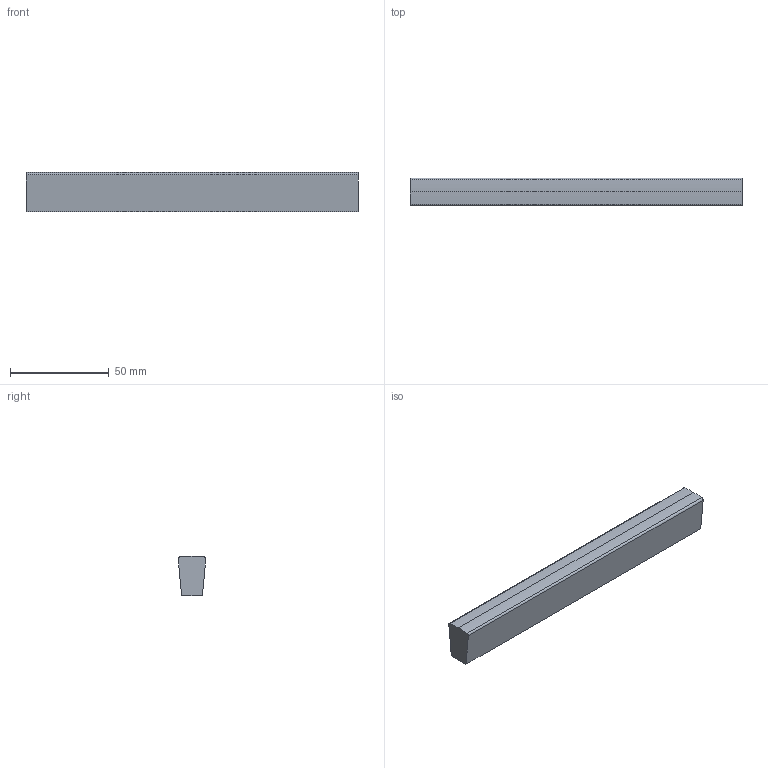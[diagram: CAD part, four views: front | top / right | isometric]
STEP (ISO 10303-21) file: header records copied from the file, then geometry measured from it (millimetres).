
FILE_DESCRIPTION (( 'STEP AP214' ), '1' );
FILE_NAME ('104920xxx TRIM 1410_LT6582.STEP', '2023-10-23T13:04:29', ( '' ), ( '' ), 'SwSTEP 2.0', 'SolidWorks 2022', '' );
FILE_SCHEMA (( 'AUTOMOTIVE_DESIGN' ));
Length unit declared in the file: millimetre
Products named in the file (3): 104920xxx TRIM 1410_LT6582 no insert; 104920xxx TRIM 1410_LT6582; M4 LT insert
Assembly tree (3 placements, depth 2):
  104920xxx TRIM 1410_LT6582
    104920xxx TRIM 1410_LT6582 no insert
    M4 LT insert  x2
Bounding box: 168 x 14 x 20 mm (x, y, z)
Volume: 40948.9 mm3; surface area: 12541.5 mm2
Topology: 3 solids, 3 shells, 93 faces, 475 edges, 390 vertices
Faces by surface type: cylinder 36, plane 23, bspline 18, cone 16
Entity records: 7046 total; most frequent: CARTESIAN_POINT 5049, ORIENTED_EDGE 508, EDGE_CURVE 254, DIRECTION 252, VERTEX_POINT 206, B_SPLINE_CURVE_WITH_KNOTS 150, AXIS2_PLACEMENT_3D 97, VECTOR 58
